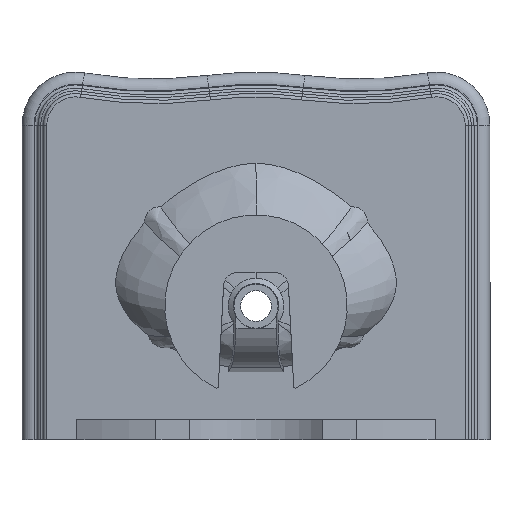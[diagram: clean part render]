
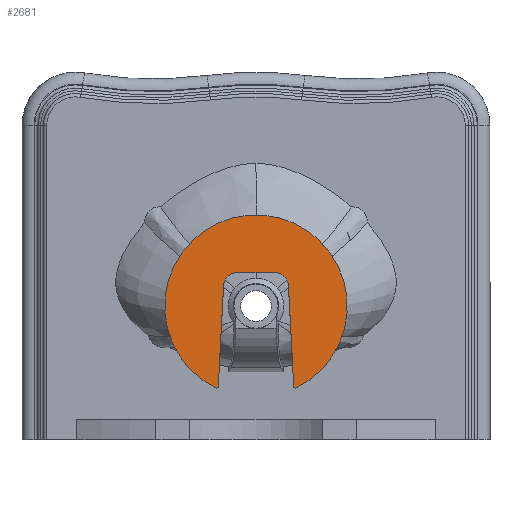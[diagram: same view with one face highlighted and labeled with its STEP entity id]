
A CAD part, front view. The second image highlights one B-rep face of the part: STEP entity #2681.
In plain terms, the highlighted planar face has unit normal (0, -1, 0).
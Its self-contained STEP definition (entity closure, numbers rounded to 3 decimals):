
#1789 = CIRCLE ( 'NONE', #22311, 3. ) ;
#2241 = CIRCLE ( 'NONE', #6733, 20. ) ;
#2424 = AXIS2_PLACEMENT_3D ( 'NONE', #28427, #66708, #33933 ) ;
#2681 = ADVANCED_FACE ( 'NONE', ( #9407 ), #51253, .F. ) ;
#2965 = LINE ( 'NONE', #36202, #46889 ) ;
#6733 = AXIS2_PLACEMENT_3D ( 'NONE', #22866, #61176, #28401 ) ;
#8810 = CARTESIAN_POINT ( 'NONE',  ( 48.493, 0., 31.047 ) ) ;
#9407 = FACE_OUTER_BOUND ( 'NONE', #62995, .T. ) ;
#9768 = ORIENTED_EDGE ( 'NONE', *, *, #54427, .T. ) ;
#10143 = ORIENTED_EDGE ( 'NONE', *, *, #11239, .T. ) ;
#11239 = EDGE_CURVE ( 'NONE', #27077, #56791, #2241, .T. ) ;
#13173 = DIRECTION ( 'NONE',  ( 0., -1., 0. ) ) ;
#13705 = DIRECTION ( 'NONE',  ( 0., -1., 0. ) ) ;
#13943 = EDGE_CURVE ( 'NONE', #63199, #18461, #44120, .T. ) ;
#15703 = VERTEX_POINT ( 'NONE', #64792 ) ;
#17468 = AXIS2_PLACEMENT_3D ( 'NONE', #46700, #13705, #52161 ) ;
#18312 = AXIS2_PLACEMENT_3D ( 'NONE', #46189, #13173, #51644 ) ;
#18461 = VERTEX_POINT ( 'NONE', #31919 ) ;
#18536 = ORIENTED_EDGE ( 'NONE', *, *, #13943, .T. ) ;
#22311 = AXIS2_PLACEMENT_3D ( 'NONE', #62281, #29484, #67779 ) ;
#22866 = CARTESIAN_POINT ( 'NONE',  ( -28.521, 0., 30. ) ) ;
#23600 = VECTOR ( 'NONE', #45495, 1000. ) ;
#24103 = CARTESIAN_POINT ( 'NONE',  ( -48.493, 0., 31.047 ) ) ;
#24173 = ORIENTED_EDGE ( 'NONE', *, *, #31146, .T. ) ;
#25554 = EDGE_CURVE ( 'NONE', #18461, #58317, #41229, .T. ) ;
#25868 = DIRECTION ( 'NONE',  ( 1., 0., 0. ) ) ;
#26086 = ORIENTED_EDGE ( 'NONE', *, *, #25554, .T. ) ;
#27077 = VERTEX_POINT ( 'NONE', #24103 ) ;
#28401 = DIRECTION ( 'NONE',  ( 0., 0., 1. ) ) ;
#28427 = CARTESIAN_POINT ( 'NONE',  ( 28.521, 0., 30. ) ) ;
#28740 = ORIENTED_EDGE ( 'NONE', *, *, #53811, .T. ) ;
#28903 = CARTESIAN_POINT ( 'NONE',  ( -28.521, 0., 50. ) ) ;
#29484 = DIRECTION ( 'NONE',  ( 0., -1., 0. ) ) ;
#30484 = CARTESIAN_POINT ( 'NONE',  ( 60.725, 0., -122.249 ) ) ;
#31146 = EDGE_CURVE ( 'NONE', #48494, #63187, #64066, .T. ) ;
#31919 = CARTESIAN_POINT ( 'NONE',  ( -60.725, 0., -122.249 ) ) ;
#33030 = VECTOR ( 'NONE', #34978, 1000. ) ;
#33933 = DIRECTION ( 'NONE',  ( 0., 0., 1. ) ) ;
#34978 = DIRECTION ( 'NONE',  ( 0.052, 0., 0.999 ) ) ;
#35661 = DIRECTION ( 'NONE',  ( 0., 0., 1. ) ) ;
#36202 = CARTESIAN_POINT ( 'NONE',  ( 0., 0., 50. ) ) ;
#37178 = ORIENTED_EDGE ( 'NONE', *, *, #62866, .T. ) ;
#39815 = CARTESIAN_POINT ( 'NONE',  ( -49.983, 0., 2.62 ) ) ;
#39976 = CARTESIAN_POINT ( 'NONE',  ( 49.983, 0., 2.62 ) ) ;
#41229 = CIRCLE ( 'NONE', #17468, 3. ) ;
#44120 = CIRCLE ( 'NONE', #18312, 136.5 ) ;
#45495 = DIRECTION ( 'NONE',  ( 0.052, 0., -0.999 ) ) ;
#46189 = CARTESIAN_POINT ( 'NONE',  ( 0., 0., 0. ) ) ;
#46700 = CARTESIAN_POINT ( 'NONE',  ( -59.39, 0., -119.562 ) ) ;
#46889 = VECTOR ( 'NONE', #25868, 1000. ) ;
#48494 = VERTEX_POINT ( 'NONE', #70400 ) ;
#51253 = PLANE ( 'NONE',  #54138 ) ;
#51644 = DIRECTION ( 'NONE',  ( 0., 0., -1. ) ) ;
#52161 = DIRECTION ( 'NONE',  ( 0., 0., 1. ) ) ;
#53811 = EDGE_CURVE ( 'NONE', #56791, #48494, #2965, .T. ) ;
#54138 = AXIS2_PLACEMENT_3D ( 'NONE', #57447, #68414, #35661 ) ;
#54427 = EDGE_CURVE ( 'NONE', #63187, #15703, #54496, .T. ) ;
#54496 = LINE ( 'NONE', #39976, #23600 ) ;
#54987 = EDGE_CURVE ( 'NONE', #58317, #27077, #58740, .T. ) ;
#56791 = VERTEX_POINT ( 'NONE', #28903 ) ;
#57447 = CARTESIAN_POINT ( 'NONE',  ( 0., 0., 0. ) ) ;
#58317 = VERTEX_POINT ( 'NONE', #70867 ) ;
#58740 = LINE ( 'NONE', #39815, #33030 ) ;
#61176 = DIRECTION ( 'NONE',  ( 0., 1., 0. ) ) ;
#62281 = CARTESIAN_POINT ( 'NONE',  ( 59.39, 0., -119.562 ) ) ;
#62866 = EDGE_CURVE ( 'NONE', #15703, #63199, #1789, .T. ) ;
#62995 = EDGE_LOOP ( 'NONE', ( #18536, #26086, #66698, #10143, #28740, #24173, #9768, #37178 ) ) ;
#63187 = VERTEX_POINT ( 'NONE', #8810 ) ;
#63199 = VERTEX_POINT ( 'NONE', #30484 ) ;
#64066 = CIRCLE ( 'NONE', #2424, 20. ) ;
#64792 = CARTESIAN_POINT ( 'NONE',  ( 56.395, 0., -119.719 ) ) ;
#66698 = ORIENTED_EDGE ( 'NONE', *, *, #54987, .T. ) ;
#66708 = DIRECTION ( 'NONE',  ( 0., 1., 0. ) ) ;
#67779 = DIRECTION ( 'NONE',  ( 0., 0., 1. ) ) ;
#68414 = DIRECTION ( 'NONE',  ( 0., 1., 0. ) ) ;
#70400 = CARTESIAN_POINT ( 'NONE',  ( 28.521, 0., 50. ) ) ;
#70867 = CARTESIAN_POINT ( 'NONE',  ( -56.395, 0., -119.719 ) ) ;
